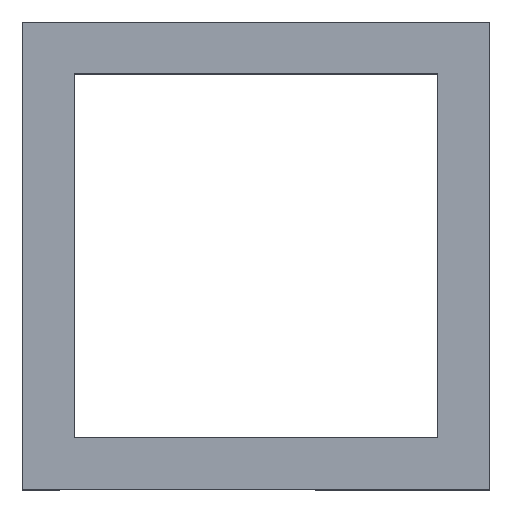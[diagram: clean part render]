
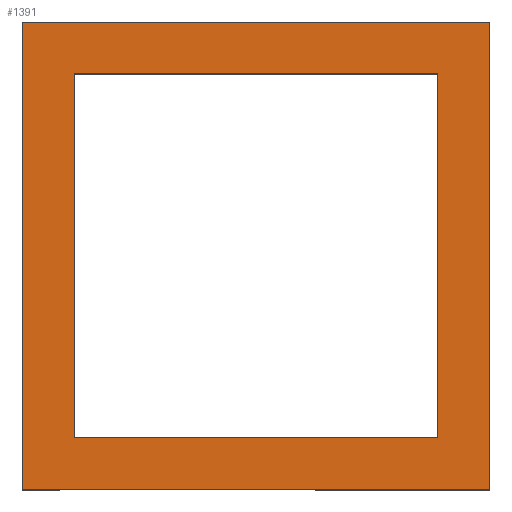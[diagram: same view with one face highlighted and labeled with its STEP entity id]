
A CAD part, top view. The second image highlights one B-rep face of the part: STEP entity #1391.
In plain terms, the highlighted planar face has unit normal (0, 0, 1).
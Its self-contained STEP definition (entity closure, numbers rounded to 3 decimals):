
#69 = PLANE('',#70);
#70 = AXIS2_PLACEMENT_3D('',#71,#72,#73);
#71 = CARTESIAN_POINT('',(-9.,-9.6,0.));
#72 = DIRECTION('',(1.,0.,0.));
#73 = DIRECTION('',(0.,0.,-1.));
#291 = VERTEX_POINT('',#292);
#292 = CARTESIAN_POINT('',(-9.,-9.,0.));
#306 = PLANE('',#307);
#307 = AXIS2_PLACEMENT_3D('',#308,#309,#310);
#308 = CARTESIAN_POINT('',(-9.6,-9.,0.));
#309 = DIRECTION('',(0.,1.,0.));
#310 = DIRECTION('',(0.,0.,-1.));
#318 = EDGE_CURVE('',#291,#319,#321,.T.);
#319 = VERTEX_POINT('',#320);
#320 = CARTESIAN_POINT('',(-9.,9.,0.));
#321 = SURFACE_CURVE('',#322,(#326,#333),.PCURVE_S1.);
#322 = LINE('',#323,#324);
#323 = CARTESIAN_POINT('',(-9.,-9.6,0.));
#324 = VECTOR('',#325,1.);
#325 = DIRECTION('',(0.,1.,0.));
#326 = PCURVE('',#69,#327);
#327 = DEFINITIONAL_REPRESENTATION('',(#328),#332);
#328 = LINE('',#329,#330);
#329 = CARTESIAN_POINT('',(0.,0.));
#330 = VECTOR('',#331,1.);
#331 = DIRECTION('',(0.,1.));
#332 = ( GEOMETRIC_REPRESENTATION_CONTEXT(2) 
PARAMETRIC_REPRESENTATION_CONTEXT() REPRESENTATION_CONTEXT('2D SPACE',''
  ) );
#333 = PCURVE('',#334,#339);
#334 = PLANE('',#335);
#335 = AXIS2_PLACEMENT_3D('',#336,#337,#338);
#336 = CARTESIAN_POINT('',(-9.6,-9.6,0.));
#337 = DIRECTION('',(0.,0.,-1.));
#338 = DIRECTION('',(1.,0.,0.));
#339 = DEFINITIONAL_REPRESENTATION('',(#340),#344);
#340 = LINE('',#341,#342);
#341 = CARTESIAN_POINT('',(0.6,0.));
#342 = VECTOR('',#343,1.);
#343 = DIRECTION('',(0.,-1.));
#344 = ( GEOMETRIC_REPRESENTATION_CONTEXT(2) 
PARAMETRIC_REPRESENTATION_CONTEXT() REPRESENTATION_CONTEXT('2D SPACE',''
  ) );
#362 = PLANE('',#363);
#363 = AXIS2_PLACEMENT_3D('',#364,#365,#366);
#364 = CARTESIAN_POINT('',(-9.6,9.,0.));
#365 = DIRECTION('',(0.,1.,0.));
#366 = DIRECTION('',(0.,0.,-1.));
#588 = PLANE('',#589);
#589 = AXIS2_PLACEMENT_3D('',#590,#591,#592);
#590 = CARTESIAN_POINT('',(-7.,-7.,-50.));
#591 = DIRECTION('',(-1.,0.,0.));
#592 = DIRECTION('',(0.,1.,0.));
#615 = PLANE('',#616);
#616 = AXIS2_PLACEMENT_3D('',#617,#618,#619);
#617 = CARTESIAN_POINT('',(7.,-7.,-50.));
#618 = DIRECTION('',(0.,-1.,0.));
#619 = DIRECTION('',(-1.,0.,0.));
#1322 = VERTEX_POINT('',#1323);
#1323 = CARTESIAN_POINT('',(9.,-9.,0.));
#1337 = PLANE('',#1338);
#1338 = AXIS2_PLACEMENT_3D('',#1339,#1340,#1341);
#1339 = CARTESIAN_POINT('',(9.,-9.6,0.));
#1340 = DIRECTION('',(1.,0.,0.));
#1341 = DIRECTION('',(0.,0.,-1.));
#1349 = EDGE_CURVE('',#291,#1322,#1350,.T.);
#1350 = SURFACE_CURVE('',#1351,(#1355,#1362),.PCURVE_S1.);
#1351 = LINE('',#1352,#1353);
#1352 = CARTESIAN_POINT('',(-9.6,-9.,0.));
#1353 = VECTOR('',#1354,1.);
#1354 = DIRECTION('',(1.,0.,0.));
#1355 = PCURVE('',#306,#1356);
#1356 = DEFINITIONAL_REPRESENTATION('',(#1357),#1361);
#1357 = LINE('',#1358,#1359);
#1358 = CARTESIAN_POINT('',(0.,0.));
#1359 = VECTOR('',#1360,1.);
#1360 = DIRECTION('',(0.,-1.));
#1361 = ( GEOMETRIC_REPRESENTATION_CONTEXT(2) 
PARAMETRIC_REPRESENTATION_CONTEXT() REPRESENTATION_CONTEXT('2D SPACE',''
  ) );
#1362 = PCURVE('',#334,#1363);
#1363 = DEFINITIONAL_REPRESENTATION('',(#1364),#1368);
#1364 = LINE('',#1365,#1366);
#1365 = CARTESIAN_POINT('',(0.,-0.6));
#1366 = VECTOR('',#1367,1.);
#1367 = DIRECTION('',(1.,0.));
#1368 = ( GEOMETRIC_REPRESENTATION_CONTEXT(2) 
PARAMETRIC_REPRESENTATION_CONTEXT() REPRESENTATION_CONTEXT('2D SPACE',''
  ) );
#1391 = ADVANCED_FACE('',(#1392,#1440),#334,.F.);
#1392 = FACE_BOUND('',#1393,.T.);
#1393 = EDGE_LOOP('',(#1394,#1417,#1418,#1419));
#1394 = ORIENTED_EDGE('',*,*,#1395,.F.);
#1395 = EDGE_CURVE('',#319,#1396,#1398,.T.);
#1396 = VERTEX_POINT('',#1397);
#1397 = CARTESIAN_POINT('',(9.,9.,0.));
#1398 = SURFACE_CURVE('',#1399,(#1403,#1410),.PCURVE_S1.);
#1399 = LINE('',#1400,#1401);
#1400 = CARTESIAN_POINT('',(-9.6,9.,0.));
#1401 = VECTOR('',#1402,1.);
#1402 = DIRECTION('',(1.,0.,0.));
#1403 = PCURVE('',#334,#1404);
#1404 = DEFINITIONAL_REPRESENTATION('',(#1405),#1409);
#1405 = LINE('',#1406,#1407);
#1406 = CARTESIAN_POINT('',(0.,-18.6));
#1407 = VECTOR('',#1408,1.);
#1408 = DIRECTION('',(1.,0.));
#1409 = ( GEOMETRIC_REPRESENTATION_CONTEXT(2) 
PARAMETRIC_REPRESENTATION_CONTEXT() REPRESENTATION_CONTEXT('2D SPACE',''
  ) );
#1410 = PCURVE('',#362,#1411);
#1411 = DEFINITIONAL_REPRESENTATION('',(#1412),#1416);
#1412 = LINE('',#1413,#1414);
#1413 = CARTESIAN_POINT('',(0.,0.));
#1414 = VECTOR('',#1415,1.);
#1415 = DIRECTION('',(0.,-1.));
#1416 = ( GEOMETRIC_REPRESENTATION_CONTEXT(2) 
PARAMETRIC_REPRESENTATION_CONTEXT() REPRESENTATION_CONTEXT('2D SPACE',''
  ) );
#1417 = ORIENTED_EDGE('',*,*,#318,.F.);
#1418 = ORIENTED_EDGE('',*,*,#1349,.T.);
#1419 = ORIENTED_EDGE('',*,*,#1420,.T.);
#1420 = EDGE_CURVE('',#1322,#1396,#1421,.T.);
#1421 = SURFACE_CURVE('',#1422,(#1426,#1433),.PCURVE_S1.);
#1422 = LINE('',#1423,#1424);
#1423 = CARTESIAN_POINT('',(9.,-9.6,0.));
#1424 = VECTOR('',#1425,1.);
#1425 = DIRECTION('',(0.,1.,0.));
#1426 = PCURVE('',#334,#1427);
#1427 = DEFINITIONAL_REPRESENTATION('',(#1428),#1432);
#1428 = LINE('',#1429,#1430);
#1429 = CARTESIAN_POINT('',(18.6,0.));
#1430 = VECTOR('',#1431,1.);
#1431 = DIRECTION('',(0.,-1.));
#1432 = ( GEOMETRIC_REPRESENTATION_CONTEXT(2) 
PARAMETRIC_REPRESENTATION_CONTEXT() REPRESENTATION_CONTEXT('2D SPACE',''
  ) );
#1433 = PCURVE('',#1337,#1434);
#1434 = DEFINITIONAL_REPRESENTATION('',(#1435),#1439);
#1435 = LINE('',#1436,#1437);
#1436 = CARTESIAN_POINT('',(0.,0.));
#1437 = VECTOR('',#1438,1.);
#1438 = DIRECTION('',(0.,1.));
#1439 = ( GEOMETRIC_REPRESENTATION_CONTEXT(2) 
PARAMETRIC_REPRESENTATION_CONTEXT() REPRESENTATION_CONTEXT('2D SPACE',''
  ) );
#1440 = FACE_BOUND('',#1441,.T.);
#1441 = EDGE_LOOP('',(#1442,#1467,#1495,#1523));
#1442 = ORIENTED_EDGE('',*,*,#1443,.T.);
#1443 = EDGE_CURVE('',#1444,#1446,#1448,.T.);
#1444 = VERTEX_POINT('',#1445);
#1445 = CARTESIAN_POINT('',(-7.,-7.,0.));
#1446 = VERTEX_POINT('',#1447);
#1447 = CARTESIAN_POINT('',(-7.,7.,0.));
#1448 = SURFACE_CURVE('',#1449,(#1453,#1460),.PCURVE_S1.);
#1449 = LINE('',#1450,#1451);
#1450 = CARTESIAN_POINT('',(-7.,-9.6,0.));
#1451 = VECTOR('',#1452,1.);
#1452 = DIRECTION('',(0.,1.,0.));
#1453 = PCURVE('',#334,#1454);
#1454 = DEFINITIONAL_REPRESENTATION('',(#1455),#1459);
#1455 = LINE('',#1456,#1457);
#1456 = CARTESIAN_POINT('',(2.6,0.));
#1457 = VECTOR('',#1458,1.);
#1458 = DIRECTION('',(0.,-1.));
#1459 = ( GEOMETRIC_REPRESENTATION_CONTEXT(2) 
PARAMETRIC_REPRESENTATION_CONTEXT() REPRESENTATION_CONTEXT('2D SPACE',''
  ) );
#1460 = PCURVE('',#588,#1461);
#1461 = DEFINITIONAL_REPRESENTATION('',(#1462),#1466);
#1462 = LINE('',#1463,#1464);
#1463 = CARTESIAN_POINT('',(-2.6,-50.));
#1464 = VECTOR('',#1465,1.);
#1465 = DIRECTION('',(1.,0.));
#1466 = ( GEOMETRIC_REPRESENTATION_CONTEXT(2) 
PARAMETRIC_REPRESENTATION_CONTEXT() REPRESENTATION_CONTEXT('2D SPACE',''
  ) );
#1467 = ORIENTED_EDGE('',*,*,#1468,.T.);
#1468 = EDGE_CURVE('',#1446,#1469,#1471,.T.);
#1469 = VERTEX_POINT('',#1470);
#1470 = CARTESIAN_POINT('',(7.,7.,0.));
#1471 = SURFACE_CURVE('',#1472,(#1476,#1483),.PCURVE_S1.);
#1472 = LINE('',#1473,#1474);
#1473 = CARTESIAN_POINT('',(-7.2,7.,0.));
#1474 = VECTOR('',#1475,1.);
#1475 = DIRECTION('',(1.,0.,0.));
#1476 = PCURVE('',#334,#1477);
#1477 = DEFINITIONAL_REPRESENTATION('',(#1478),#1482);
#1478 = LINE('',#1479,#1480);
#1479 = CARTESIAN_POINT('',(2.4,-16.6));
#1480 = VECTOR('',#1481,1.);
#1481 = DIRECTION('',(1.,0.));
#1482 = ( GEOMETRIC_REPRESENTATION_CONTEXT(2) 
PARAMETRIC_REPRESENTATION_CONTEXT() REPRESENTATION_CONTEXT('2D SPACE',''
  ) );
#1483 = PCURVE('',#1484,#1489);
#1484 = PLANE('',#1485);
#1485 = AXIS2_PLACEMENT_3D('',#1486,#1487,#1488);
#1486 = CARTESIAN_POINT('',(-7.2,7.,0.));
#1487 = DIRECTION('',(0.,1.,0.));
#1488 = DIRECTION('',(0.,0.,-1.));
#1489 = DEFINITIONAL_REPRESENTATION('',(#1490),#1494);
#1490 = LINE('',#1491,#1492);
#1491 = CARTESIAN_POINT('',(0.,0.));
#1492 = VECTOR('',#1493,1.);
#1493 = DIRECTION('',(0.,-1.));
#1494 = ( GEOMETRIC_REPRESENTATION_CONTEXT(2) 
PARAMETRIC_REPRESENTATION_CONTEXT() REPRESENTATION_CONTEXT('2D SPACE',''
  ) );
#1495 = ORIENTED_EDGE('',*,*,#1496,.F.);
#1496 = EDGE_CURVE('',#1497,#1469,#1499,.T.);
#1497 = VERTEX_POINT('',#1498);
#1498 = CARTESIAN_POINT('',(7.,-7.,0.));
#1499 = SURFACE_CURVE('',#1500,(#1504,#1511),.PCURVE_S1.);
#1500 = LINE('',#1501,#1502);
#1501 = CARTESIAN_POINT('',(7.,-9.6,0.));
#1502 = VECTOR('',#1503,1.);
#1503 = DIRECTION('',(0.,1.,0.));
#1504 = PCURVE('',#334,#1505);
#1505 = DEFINITIONAL_REPRESENTATION('',(#1506),#1510);
#1506 = LINE('',#1507,#1508);
#1507 = CARTESIAN_POINT('',(16.6,0.));
#1508 = VECTOR('',#1509,1.);
#1509 = DIRECTION('',(0.,-1.));
#1510 = ( GEOMETRIC_REPRESENTATION_CONTEXT(2) 
PARAMETRIC_REPRESENTATION_CONTEXT() REPRESENTATION_CONTEXT('2D SPACE',''
  ) );
#1511 = PCURVE('',#1512,#1517);
#1512 = PLANE('',#1513);
#1513 = AXIS2_PLACEMENT_3D('',#1514,#1515,#1516);
#1514 = CARTESIAN_POINT('',(7.,-7.2,0.));
#1515 = DIRECTION('',(1.,0.,0.));
#1516 = DIRECTION('',(0.,0.,-1.));
#1517 = DEFINITIONAL_REPRESENTATION('',(#1518),#1522);
#1518 = LINE('',#1519,#1520);
#1519 = CARTESIAN_POINT('',(0.,-2.4));
#1520 = VECTOR('',#1521,1.);
#1521 = DIRECTION('',(0.,1.));
#1522 = ( GEOMETRIC_REPRESENTATION_CONTEXT(2) 
PARAMETRIC_REPRESENTATION_CONTEXT() REPRESENTATION_CONTEXT('2D SPACE',''
  ) );
#1523 = ORIENTED_EDGE('',*,*,#1524,.F.);
#1524 = EDGE_CURVE('',#1444,#1497,#1525,.T.);
#1525 = SURFACE_CURVE('',#1526,(#1530,#1537),.PCURVE_S1.);
#1526 = LINE('',#1527,#1528);
#1527 = CARTESIAN_POINT('',(-7.2,-7.,0.));
#1528 = VECTOR('',#1529,1.);
#1529 = DIRECTION('',(1.,0.,0.));
#1530 = PCURVE('',#334,#1531);
#1531 = DEFINITIONAL_REPRESENTATION('',(#1532),#1536);
#1532 = LINE('',#1533,#1534);
#1533 = CARTESIAN_POINT('',(2.4,-2.6));
#1534 = VECTOR('',#1535,1.);
#1535 = DIRECTION('',(1.,0.));
#1536 = ( GEOMETRIC_REPRESENTATION_CONTEXT(2) 
PARAMETRIC_REPRESENTATION_CONTEXT() REPRESENTATION_CONTEXT('2D SPACE',''
  ) );
#1537 = PCURVE('',#615,#1538);
#1538 = DEFINITIONAL_REPRESENTATION('',(#1539),#1543);
#1539 = LINE('',#1540,#1541);
#1540 = CARTESIAN_POINT('',(14.2,-50.));
#1541 = VECTOR('',#1542,1.);
#1542 = DIRECTION('',(-1.,-0.));
#1543 = ( GEOMETRIC_REPRESENTATION_CONTEXT(2) 
PARAMETRIC_REPRESENTATION_CONTEXT() REPRESENTATION_CONTEXT('2D SPACE',''
  ) );
